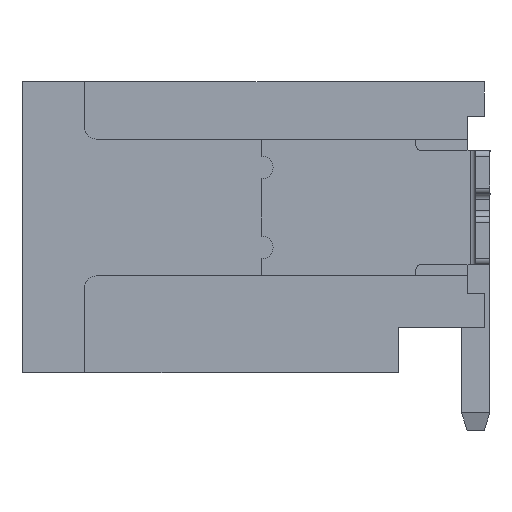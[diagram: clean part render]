
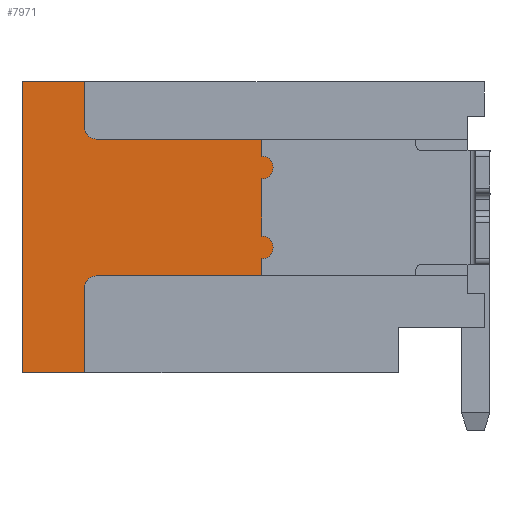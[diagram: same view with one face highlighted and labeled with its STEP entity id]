
A CAD part, left-side view. The second image highlights one B-rep face of the part: STEP entity #7971.
In plain terms, the highlighted planar face has unit normal (-1, 0, 0).
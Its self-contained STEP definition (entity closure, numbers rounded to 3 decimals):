
#334=CIRCLE('',#8490,0.2);
#335=CIRCLE('',#8491,0.2);
#585=FACE_OUTER_BOUND('',#1032,.T.);
#1032=EDGE_LOOP('',(#5851,#5852,#5853,#5854,#5855,#5856,#5857,#5858,#5859,
#5860,#5861,#5862,#5863,#5864));
#1691=LINE('',#11854,#2684);
#1701=LINE('',#11874,#2694);
#1702=LINE('',#11878,#2695);
#1703=LINE('',#11882,#2696);
#1704=LINE('',#11884,#2697);
#1705=LINE('',#11886,#2698);
#1706=LINE('',#11888,#2699);
#1707=LINE('',#11889,#2700);
#1708=LINE('',#11891,#2701);
#1709=LINE('',#11893,#2702);
#1710=LINE('',#11895,#2703);
#1711=LINE('',#11896,#2704);
#2684=VECTOR('',#9626,1000.);
#2694=VECTOR('',#9638,10.);
#2695=VECTOR('',#9641,10.);
#2696=VECTOR('',#9644,10.);
#2697=VECTOR('',#9645,1000.);
#2698=VECTOR('',#9646,1000.);
#2699=VECTOR('',#9647,1000.);
#2700=VECTOR('',#9648,1000.);
#2701=VECTOR('',#9649,1000.);
#2702=VECTOR('',#9650,1000.);
#2703=VECTOR('',#9651,1000.);
#2704=VECTOR('',#9652,1000.);
#3581=VERTEX_POINT('',#11852);
#3582=VERTEX_POINT('',#11853);
#3590=VERTEX_POINT('',#11872);
#3591=VERTEX_POINT('',#11873);
#3592=VERTEX_POINT('',#11875);
#3593=VERTEX_POINT('',#11877);
#3594=VERTEX_POINT('',#11879);
#3595=VERTEX_POINT('',#11881);
#3596=VERTEX_POINT('',#11883);
#3597=VERTEX_POINT('',#11885);
#3598=VERTEX_POINT('',#11887);
#3599=VERTEX_POINT('',#11890);
#3600=VERTEX_POINT('',#11892);
#3601=VERTEX_POINT('',#11894);
#4435=EDGE_CURVE('',#3581,#3582,#1691,.T.);
#4445=EDGE_CURVE('',#3590,#3591,#1701,.T.);
#4446=EDGE_CURVE('',#3591,#3592,#334,.T.);
#4447=EDGE_CURVE('',#3592,#3593,#1702,.T.);
#4448=EDGE_CURVE('',#3593,#3594,#335,.T.);
#4449=EDGE_CURVE('',#3594,#3595,#1703,.T.);
#4450=EDGE_CURVE('',#3595,#3596,#1704,.T.);
#4451=EDGE_CURVE('',#3596,#3597,#1705,.T.);
#4452=EDGE_CURVE('',#3597,#3598,#1706,.T.);
#4453=EDGE_CURVE('',#3598,#3581,#1707,.T.);
#4454=EDGE_CURVE('',#3582,#3599,#1708,.T.);
#4455=EDGE_CURVE('',#3599,#3600,#1709,.T.);
#4456=EDGE_CURVE('',#3600,#3601,#1710,.T.);
#4457=EDGE_CURVE('',#3590,#3601,#1711,.T.);
#5851=ORIENTED_EDGE('',*,*,#4445,.T.);
#5852=ORIENTED_EDGE('',*,*,#4446,.T.);
#5853=ORIENTED_EDGE('',*,*,#4447,.T.);
#5854=ORIENTED_EDGE('',*,*,#4448,.T.);
#5855=ORIENTED_EDGE('',*,*,#4449,.T.);
#5856=ORIENTED_EDGE('',*,*,#4450,.T.);
#5857=ORIENTED_EDGE('',*,*,#4451,.T.);
#5858=ORIENTED_EDGE('',*,*,#4452,.T.);
#5859=ORIENTED_EDGE('',*,*,#4453,.T.);
#5860=ORIENTED_EDGE('',*,*,#4435,.T.);
#5861=ORIENTED_EDGE('',*,*,#4454,.T.);
#5862=ORIENTED_EDGE('',*,*,#4455,.T.);
#5863=ORIENTED_EDGE('',*,*,#4456,.T.);
#5864=ORIENTED_EDGE('',*,*,#4457,.F.);
#7568=PLANE('',#8489);
#7971=ADVANCED_FACE('',(#585),#7568,.T.);
#8489=AXIS2_PLACEMENT_3D('',#11871,#9636,#9637);
#8490=AXIS2_PLACEMENT_3D('',#11876,#9639,#9640);
#8491=AXIS2_PLACEMENT_3D('',#11880,#9642,#9643);
#9626=DIRECTION('',(0.,0.,-1.));
#9636=DIRECTION('center_axis',(-1.,0.,0.));
#9637=DIRECTION('ref_axis',(0.,0.,1.));
#9638=DIRECTION('',(0.,0.,1.));
#9639=DIRECTION('center_axis',(-1.,0.,0.));
#9640=DIRECTION('ref_axis',(0.,0.,-1.));
#9641=DIRECTION('',(0.,0.,1.));
#9642=DIRECTION('center_axis',(-1.,0.,0.));
#9643=DIRECTION('ref_axis',(0.,0.,-1.));
#9644=DIRECTION('',(0.,0.,1.));
#9645=DIRECTION('',(0.,1.,0.));
#9646=DIRECTION('',(0.,0.707,0.707));
#9647=DIRECTION('',(0.,0.,1.));
#9648=DIRECTION('',(0.,1.,0.));
#9649=DIRECTION('',(0.,-1.,0.));
#9650=DIRECTION('',(0.,0.,1.));
#9651=DIRECTION('',(0.,-0.707,0.707));
#9652=DIRECTION('',(0.,1.,0.));
#11852=CARTESIAN_POINT('',(-7.401,3.724,18.55));
#11853=CARTESIAN_POINT('',(-7.401,3.724,13.45));
#11854=CARTESIAN_POINT('',(-7.401,3.724,18.55));
#11871=CARTESIAN_POINT('Origin',(-7.401,-0.176,16.));
#11872=CARTESIAN_POINT('',(-7.401,-0.476,14.9));
#11873=CARTESIAN_POINT('',(-7.401,-0.476,15.45));
#11874=CARTESIAN_POINT('',(-7.401,-0.476,15.45));
#11875=CARTESIAN_POINT('',(-7.401,-0.476,15.85));
#11876=CARTESIAN_POINT('Origin',(-7.401,-0.476,15.65));
#11877=CARTESIAN_POINT('',(-7.401,-0.476,16.85));
#11878=CARTESIAN_POINT('',(-7.401,-0.476,15.925));
#11879=CARTESIAN_POINT('',(-7.401,-0.476,17.25));
#11880=CARTESIAN_POINT('Origin',(-7.401,-0.476,17.05));
#11881=CARTESIAN_POINT('',(-7.401,-0.476,17.8));
#11882=CARTESIAN_POINT('',(-7.401,-0.476,16.625));
#11883=CARTESIAN_POINT('',(-7.401,2.524,17.8));
#11884=CARTESIAN_POINT('',(-7.401,-3.176,17.8));
#11885=CARTESIAN_POINT('',(-7.401,2.624,17.9));
#11886=CARTESIAN_POINT('',(-7.401,2.524,17.8));
#11887=CARTESIAN_POINT('',(-7.401,2.624,18.55));
#11888=CARTESIAN_POINT('',(-7.401,2.624,17.55));
#11889=CARTESIAN_POINT('',(-7.401,2.624,18.55));
#11890=CARTESIAN_POINT('',(-7.401,2.624,13.45));
#11891=CARTESIAN_POINT('',(-7.401,3.724,13.45));
#11892=CARTESIAN_POINT('',(-7.401,2.624,14.8));
#11893=CARTESIAN_POINT('',(-7.401,2.624,13.45));
#11894=CARTESIAN_POINT('',(-7.401,2.524,14.9));
#11895=CARTESIAN_POINT('',(-7.401,2.524,14.9));
#11896=CARTESIAN_POINT('',(-7.401,-3.176,14.9));
